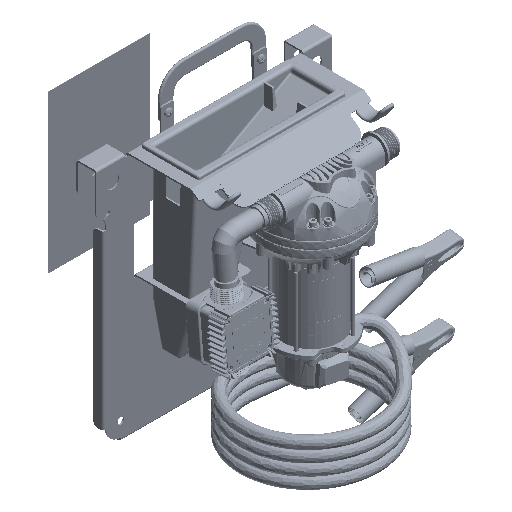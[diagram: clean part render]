
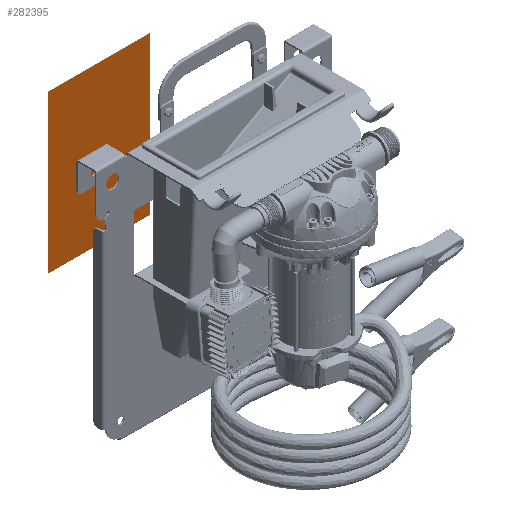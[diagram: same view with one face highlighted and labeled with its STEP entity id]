
A CAD part, isometric view. The second image highlights one B-rep face of the part: STEP entity #282395.
In plain terms, the highlighted planar face has unit normal (0, -1, 0) as drawn and (0, 0, 1) by its records, which use the part's own axes.
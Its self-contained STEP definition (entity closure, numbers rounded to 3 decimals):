
#38351=FACE_OUTER_BOUND('',#54823,.T.);
#54823=EDGE_LOOP('',(#245958,#245959,#245960,#245961));
#83521=LINE('',#988340,#99902);
#83524=LINE('',#988346,#99905);
#83527=LINE('',#988352,#99908);
#83530=LINE('',#988356,#99911);
#99902=VECTOR('',#376789,10.);
#99905=VECTOR('',#376794,10.);
#99908=VECTOR('',#376799,10.);
#99911=VECTOR('',#376804,10.);
#125247=VERTEX_POINT('',#988337);
#125248=VERTEX_POINT('',#988339);
#125250=VERTEX_POINT('',#988345);
#125252=VERTEX_POINT('',#988351);
#165497=EDGE_CURVE('',#125248,#125247,#83521,.T.);
#165500=EDGE_CURVE('',#125250,#125248,#83524,.T.);
#165503=EDGE_CURVE('',#125252,#125250,#83527,.T.);
#165506=EDGE_CURVE('',#125247,#125252,#83530,.T.);
#245958=ORIENTED_EDGE('',*,*,#165506,.T.);
#245959=ORIENTED_EDGE('',*,*,#165503,.T.);
#245960=ORIENTED_EDGE('',*,*,#165500,.T.);
#245961=ORIENTED_EDGE('',*,*,#165497,.T.);
#251886=PLANE('',#308709);
#282395=ADVANCED_FACE('',(#38351),#251886,.T.);
#308709=AXIS2_PLACEMENT_3D('',#988357,#376805,#376806);
#376789=DIRECTION('',(1.,0.,0.));
#376794=DIRECTION('',(0.,-1.,0.));
#376799=DIRECTION('',(-1.,0.,0.));
#376804=DIRECTION('',(0.,1.,0.));
#376805=DIRECTION('center_axis',(0.,0.,1.));
#376806=DIRECTION('ref_axis',(1.,0.,0.));
#988337=CARTESIAN_POINT('',(139.7,0.,0.254));
#988339=CARTESIAN_POINT('',(0.,0.,0.254));
#988340=CARTESIAN_POINT('',(0.,0.,0.254));
#988345=CARTESIAN_POINT('',(0.,215.9,0.254));
#988346=CARTESIAN_POINT('',(0.,215.9,0.254));
#988351=CARTESIAN_POINT('',(139.7,215.9,0.254));
#988352=CARTESIAN_POINT('',(139.7,215.9,0.254));
#988356=CARTESIAN_POINT('',(139.7,0.,0.254));
#988357=CARTESIAN_POINT('Origin',(69.85,107.95,0.254));
